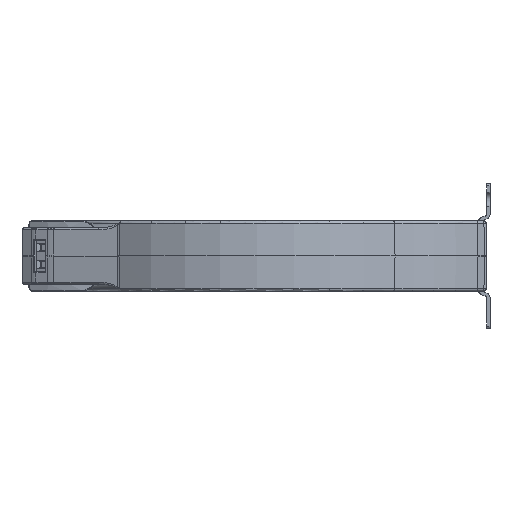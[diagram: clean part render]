
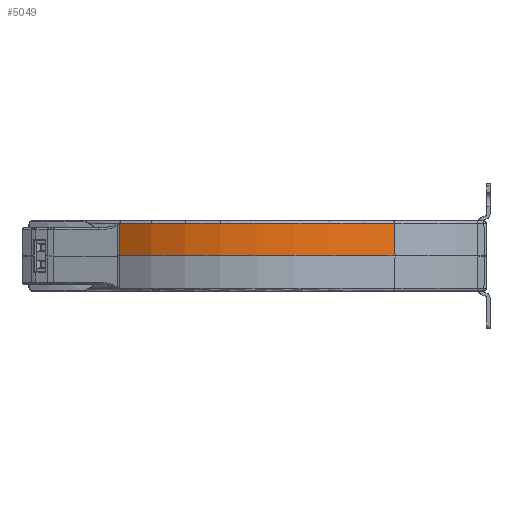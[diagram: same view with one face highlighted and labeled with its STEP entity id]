
A CAD part, left-side view. The second image highlights one B-rep face of the part: STEP entity #5049.
In plain terms, the highlighted conical face has half-angle 1 degrees and reference radius 100.482 mm.
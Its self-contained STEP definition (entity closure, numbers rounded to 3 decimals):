
#2012=CARTESIAN_POINT('',(-50.253,64.866,
0.));
#2014=CARTESIAN_POINT('',(-50.253,64.866,
0.));
#2015=CARTESIAN_POINT('',(-50.177,64.827,4.839));
#2016=CARTESIAN_POINT('',(-50.101,64.787,9.678));
#2017=CARTESIAN_POINT('',(-50.025,64.748,14.518));
#2019=CARTESIAN_POINT('',(-50.025,64.748,14.518));
#2044=CARTESIAN_POINT('',(29.895,4.052,
0.));
#2045=DIRECTION('',(0.,0.,1.));
#2046=DIRECTION('',(-0.797,0.604,0.));
#2047=AXIS2_PLACEMENT_3D('',#2044,#2045,#2046);
#2049=CARTESIAN_POINT('',(29.895,4.052,
0.));
#2050=DIRECTION('',(0.,0.,1.));
#2051=DIRECTION('',(-1.,0.,0.));
#2052=AXIS2_PLACEMENT_3D('',#2049,#2050,#2051);
#2054=CARTESIAN_POINT('',(29.895,4.052,14.517));
#2055=DIRECTION('',(0.,0.,1.));
#2056=DIRECTION('',(-0.796,0.605,0.));
#2057=AXIS2_PLACEMENT_3D('',#2054,#2055,#2056);
#2059=CARTESIAN_POINT('',(29.895,4.052,14.517));
#2060=DIRECTION('',(0.,0.,1.));
#2061=DIRECTION('',(-1.,0.,0.));
#2062=AXIS2_PLACEMENT_3D('',#2059,#2060,#2061);
#2679=DIRECTION('',(-0.014,-0.011,-1.));
#2680=VECTOR('',#2679,14.52);
#2681=CARTESIAN_POINT('',(-49.89,-56.821,
14.517));
#2682=LINE('',#2681,#2680);
#4053=VERTEX_POINT('',#2012);
#4054=VERTEX_POINT('',#2019);
#4057=CARTESIAN_POINT('',(-70.714,4.052,
0.));
#4058=VERTEX_POINT('',#4057);
#4059=CARTESIAN_POINT('',(-50.092,-56.974,
0.));
#4060=VERTEX_POINT('',#4059);
#4296=CARTESIAN_POINT('',(-70.46,4.052,14.517));
#4297=CARTESIAN_POINT('',(-49.89,-56.821,
14.517));
#4298=VERTEX_POINT('',#4296);
#4299=VERTEX_POINT('',#4297);
#5031=CARTESIAN_POINT('',(29.895,4.052,7.259));
#5032=DIRECTION('',(0.,0.,-1.));
#5033=DIRECTION('',(1.,0.,0.));
#5034=AXIS2_PLACEMENT_3D('',#5031,#5032,#5033);
#5035=CONICAL_SURFACE('',#5034,100.482,1.);
#5037=ORIENTED_EDGE('',*,*,#5036,.F.);
#5039=ORIENTED_EDGE('',*,*,#5038,.F.);
#5040=ORIENTED_EDGE('',*,*,#5019,.F.);
#5042=ORIENTED_EDGE('',*,*,#5041,.T.);
#5044=ORIENTED_EDGE('',*,*,#5043,.T.);
#5046=ORIENTED_EDGE('',*,*,#5045,.F.);
#5047=EDGE_LOOP('',(#5037,#5039,#5040,#5042,#5044,#5046));
#5048=FACE_OUTER_BOUND('',#5047,.F.);
#2018=B_SPLINE_CURVE_WITH_KNOTS('',3,(#2014,#2015,#2016,#2017),.UNSPECIFIED.,
.F.,.F.,(4,4),(0.,1.),.UNSPECIFIED.);
#2048=CIRCLE('',#2047,100.609);
#2053=CIRCLE('',#2052,100.609);
#2058=CIRCLE('',#2057,100.355);
#2063=CIRCLE('',#2062,100.355);
#5019=EDGE_CURVE('',#4053,#4054,#2018,.T.);
#5036=EDGE_CURVE('',#4298,#4299,#2063,.T.);
#5038=EDGE_CURVE('',#4054,#4298,#2058,.T.);
#5041=EDGE_CURVE('',#4053,#4058,#2048,.T.);
#5043=EDGE_CURVE('',#4058,#4060,#2053,.T.);
#5045=EDGE_CURVE('',#4299,#4060,#2682,.T.);
#5049=ADVANCED_FACE('',(#5048),#5035,.F.);
